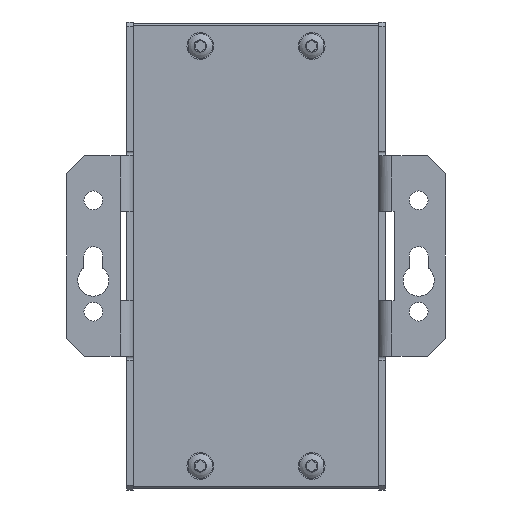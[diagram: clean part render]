
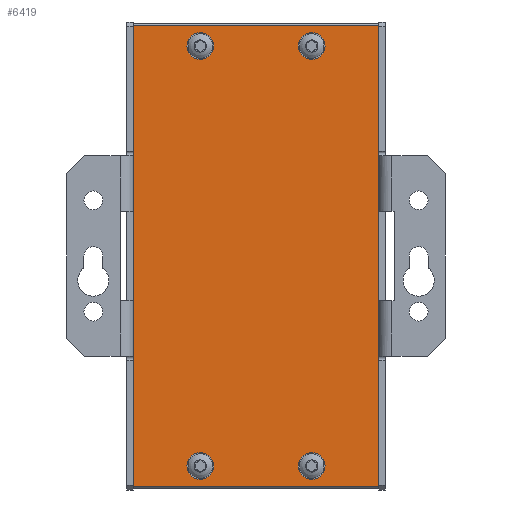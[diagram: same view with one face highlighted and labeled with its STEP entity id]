
A CAD part, front view. The second image highlights one B-rep face of the part: STEP entity #6419.
In plain terms, the highlighted planar face has unit normal (0, -1, 0).
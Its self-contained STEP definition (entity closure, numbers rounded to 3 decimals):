
#1467=CARTESIAN_POINT('',(-9.5,-9.45,47.1));
#1468=VERTEX_POINT('',#1467);
#1477=CARTESIAN_POINT('',(-12.5,-9.45,44.1));
#1478=VERTEX_POINT('',#1477);
#1479=CARTESIAN_POINT('',(-12.5,-9.45,47.1));
#1480=DIRECTION('',(0.,-1.,0.));
#1481=DIRECTION('',(0.,0.,-1.));
#1482=AXIS2_PLACEMENT_3D('',#1479,#1480,#1481);
#1483=CIRCLE('',#1482,3.);
#1484=EDGE_CURVE('',#1468,#1478,#1483,.T.);
#1486=CARTESIAN_POINT('',(-12.5,-9.45,47.1));
#1487=DIRECTION('',(0.,-1.,0.));
#1488=DIRECTION('',(0.,0.,-1.));
#1489=AXIS2_PLACEMENT_3D('',#1486,#1487,#1488);
#1490=CIRCLE('',#1489,3.);
#1491=EDGE_CURVE('',#1478,#1468,#1490,.T.);
#1519=CARTESIAN_POINT('',(15.5,-9.45,47.1));
#1520=VERTEX_POINT('',#1519);
#1529=CARTESIAN_POINT('',(12.5,-9.45,44.1));
#1530=VERTEX_POINT('',#1529);
#1531=CARTESIAN_POINT('',(12.5,-9.45,47.1));
#1532=DIRECTION('',(0.,-1.,0.));
#1533=DIRECTION('',(0.,0.,-1.));
#1534=AXIS2_PLACEMENT_3D('',#1531,#1532,#1533);
#1535=CIRCLE('',#1534,3.);
#1536=EDGE_CURVE('',#1520,#1530,#1535,.T.);
#1538=CARTESIAN_POINT('',(12.5,-9.45,47.1));
#1539=DIRECTION('',(0.,-1.,0.));
#1540=DIRECTION('',(0.,0.,-1.));
#1541=AXIS2_PLACEMENT_3D('',#1538,#1539,#1540);
#1542=CIRCLE('',#1541,3.);
#1543=EDGE_CURVE('',#1530,#1520,#1542,.T.);
#1571=CARTESIAN_POINT('',(15.5,-9.45,-47.1));
#1572=VERTEX_POINT('',#1571);
#1581=CARTESIAN_POINT('',(12.5,-9.45,-50.1));
#1582=VERTEX_POINT('',#1581);
#1583=CARTESIAN_POINT('',(12.5,-9.45,-47.1));
#1584=DIRECTION('',(0.,-1.,0.));
#1585=DIRECTION('',(0.,0.,-1.));
#1586=AXIS2_PLACEMENT_3D('',#1583,#1584,#1585);
#1587=CIRCLE('',#1586,3.);
#1588=EDGE_CURVE('',#1572,#1582,#1587,.T.);
#1590=CARTESIAN_POINT('',(12.5,-9.45,-47.1));
#1591=DIRECTION('',(0.,-1.,0.));
#1592=DIRECTION('',(0.,0.,-1.));
#1593=AXIS2_PLACEMENT_3D('',#1590,#1591,#1592);
#1594=CIRCLE('',#1593,3.);
#1595=EDGE_CURVE('',#1582,#1572,#1594,.T.);
#1623=CARTESIAN_POINT('',(-9.5,-9.45,-47.1));
#1624=VERTEX_POINT('',#1623);
#1633=CARTESIAN_POINT('',(-12.5,-9.45,-50.1));
#1634=VERTEX_POINT('',#1633);
#1635=CARTESIAN_POINT('',(-12.5,-9.45,-47.1));
#1636=DIRECTION('',(0.,-1.,0.));
#1637=DIRECTION('',(0.,0.,-1.));
#1638=AXIS2_PLACEMENT_3D('',#1635,#1636,#1637);
#1639=CIRCLE('',#1638,3.);
#1640=EDGE_CURVE('',#1624,#1634,#1639,.T.);
#1642=CARTESIAN_POINT('',(-12.5,-9.45,-47.1));
#1643=DIRECTION('',(0.,-1.,0.));
#1644=DIRECTION('',(0.,0.,-1.));
#1645=AXIS2_PLACEMENT_3D('',#1642,#1643,#1644);
#1646=CIRCLE('',#1645,3.);
#1647=EDGE_CURVE('',#1634,#1624,#1646,.T.);
#6143=CARTESIAN_POINT('',(-27.5,-9.45,-23.5));
#6144=VERTEX_POINT('',#6143);
#6151=CARTESIAN_POINT('',(-27.5,-9.45,23.5));
#6152=VERTEX_POINT('',#6151);
#6153=CARTESIAN_POINT('',(-27.5,-9.45,-23.5));
#6154=DIRECTION('',(0.,0.,1.));
#6155=VECTOR('',#6154,47.);
#6156=LINE('',#6153,#6155);
#6157=EDGE_CURVE('',#6144,#6152,#6156,.T.);
#6307=CARTESIAN_POINT('',(27.5,-9.45,23.5));
#6308=VERTEX_POINT('',#6307);
#6315=CARTESIAN_POINT('',(27.5,-9.45,-23.5));
#6316=VERTEX_POINT('',#6315);
#6317=CARTESIAN_POINT('',(27.5,-9.45,-23.5));
#6318=DIRECTION('',(0.,0.,1.));
#6319=VECTOR('',#6318,47.);
#6320=LINE('',#6317,#6319);
#6321=EDGE_CURVE('',#6316,#6308,#6320,.T.);
#6350=CARTESIAN_POINT('',(27.5,-9.45,-52.25));
#6351=DIRECTION('',(0.,-1.,0.));
#6352=DIRECTION('',(0.,0.,-1.));
#6353=AXIS2_PLACEMENT_3D('',#6350,#6351,#6352);
#6354=PLANE('',#6353);
#6355=ORIENTED_EDGE('',*,*,#1640,.F.);
#6356=ORIENTED_EDGE('',*,*,#1647,.F.);
#6357=EDGE_LOOP('',(#6355,#6356));
#6358=FACE_BOUND('',#6357,.T.);
#6359=ORIENTED_EDGE('',*,*,#1588,.F.);
#6360=ORIENTED_EDGE('',*,*,#1595,.F.);
#6361=EDGE_LOOP('',(#6359,#6360));
#6362=FACE_BOUND('',#6361,.T.);
#6363=ORIENTED_EDGE('',*,*,#1536,.F.);
#6364=ORIENTED_EDGE('',*,*,#1543,.F.);
#6365=EDGE_LOOP('',(#6363,#6364));
#6366=FACE_BOUND('',#6365,.T.);
#6367=ORIENTED_EDGE('',*,*,#1484,.F.);
#6368=ORIENTED_EDGE('',*,*,#1491,.F.);
#6369=EDGE_LOOP('',(#6367,#6368));
#6370=FACE_BOUND('',#6369,.T.);
#6371=CARTESIAN_POINT('',(27.5,-9.45,-51.617));
#6372=VERTEX_POINT('',#6371);
#6373=CARTESIAN_POINT('',(27.5,-9.45,-51.617));
#6374=DIRECTION('',(0.,0.,1.));
#6375=VECTOR('',#6374,28.117);
#6376=LINE('',#6373,#6375);
#6377=EDGE_CURVE('',#6372,#6316,#6376,.T.);
#6378=ORIENTED_EDGE('',*,*,#6377,.T.);
#6379=ORIENTED_EDGE('',*,*,#6321,.T.);
#6380=CARTESIAN_POINT('',(27.5,-9.45,51.617));
#6381=VERTEX_POINT('',#6380);
#6382=CARTESIAN_POINT('',(27.5,-9.45,51.617));
#6383=DIRECTION('',(0.,0.,-1.));
#6384=VECTOR('',#6383,28.117);
#6385=LINE('',#6382,#6384);
#6386=EDGE_CURVE('',#6381,#6308,#6385,.T.);
#6387=ORIENTED_EDGE('',*,*,#6386,.F.);
#6388=CARTESIAN_POINT('',(-27.5,-9.45,51.617));
#6389=VERTEX_POINT('',#6388);
#6390=CARTESIAN_POINT('',(27.5,-9.45,51.617));
#6391=DIRECTION('',(-1.,-0.,0.));
#6392=VECTOR('',#6391,55.);
#6393=LINE('',#6390,#6392);
#6394=EDGE_CURVE('',#6381,#6389,#6393,.T.);
#6395=ORIENTED_EDGE('',*,*,#6394,.T.);
#6396=CARTESIAN_POINT('',(-27.5,-9.45,51.617));
#6397=DIRECTION('',(0.,0.,-1.));
#6398=VECTOR('',#6397,28.117);
#6399=LINE('',#6396,#6398);
#6400=EDGE_CURVE('',#6389,#6152,#6399,.T.);
#6401=ORIENTED_EDGE('',*,*,#6400,.T.);
#6402=ORIENTED_EDGE('',*,*,#6157,.F.);
#6403=CARTESIAN_POINT('',(-27.5,-9.45,-51.617));
#6404=VERTEX_POINT('',#6403);
#6405=CARTESIAN_POINT('',(-27.5,-9.45,-51.617));
#6406=DIRECTION('',(0.,0.,1.));
#6407=VECTOR('',#6406,28.117);
#6408=LINE('',#6405,#6407);
#6409=EDGE_CURVE('',#6404,#6144,#6408,.T.);
#6410=ORIENTED_EDGE('',*,*,#6409,.F.);
#6411=CARTESIAN_POINT('',(-27.5,-9.45,-51.617));
#6412=DIRECTION('',(1.,-0.,-0.));
#6413=VECTOR('',#6412,55.);
#6414=LINE('',#6411,#6413);
#6415=EDGE_CURVE('',#6404,#6372,#6414,.T.);
#6416=ORIENTED_EDGE('',*,*,#6415,.T.);
#6417=EDGE_LOOP('',(#6378,#6379,#6387,#6395,#6401,#6402,#6410,#6416));
#6418=FACE_BOUND('',#6417,.T.);
#6419=ADVANCED_FACE('',(#6358,#6362,#6366,#6370,#6418),#6354,.T.);
